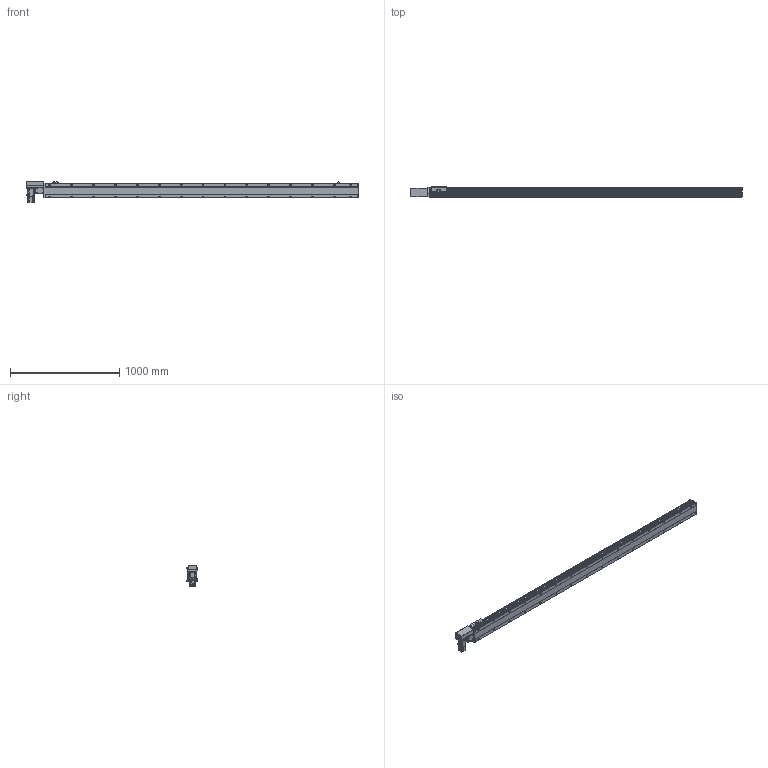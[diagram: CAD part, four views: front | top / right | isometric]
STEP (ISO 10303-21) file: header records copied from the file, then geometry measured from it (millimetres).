
FILE_DESCRIPTION(/* description */ ('STEP AP214'),/* implementation_level */ '2;1');
FILE_NAME(/* name */ 'PBS140S-P40-S2600-R-T40-C1-N(0)',/* time_stamp */ '2022-06-09T02:19:56+02:00',/* author */ ('License CC BY-ND 4.0'),/* organization */ ('CADENAS'),/* preprocessor_version */ 'ST-DEVELOPER v18.102',/* originating_system */ 'PARTsolutions',/* authorisation */ ' ');
FILE_SCHEMA (('AUTOMOTIVE_DESIGN {1 0 10303 214 3 1 1}'));
Length unit declared in the file: millimetre
Products named in the file (7): PBS140S-P40-S2600-R-T40-C1-N(0); PBS140S_sensor; PBS140S_plant; PBS140S_sliser; T40-p1; PBS140ST-R_motors; PBS140S-S2600()_body
Assembly tree (8 placements, depth 2):
  PBS140S-P40-S2600-R-T40-C1-N(0)
    PBS140S_sensor  x3
    PBS140S_plant
    PBS140S_sliser
    T40-p1
    PBS140ST-R_motors
    PBS140S-S2600()_body
Bounding box: 3033 x 93 x 189.7 mm (x, y, z)
Volume: 14325762.2 mm3; surface area: 2411213.5 mm2
Topology: 8 solids, 8 shells, 1211 faces, 3191 edges, 2087 vertices
Faces by surface type: plane 744, cylinder 401, cone 56, sphere 8, torus 2
Full cylindrical faces by diameter (mm): 3.242 x4, 4 x2, 4.134 x4, 4.4 x8, 4.5 x2, 4.8 x4, 4.917 x38, 5.5 x7, 6 x2, 7 x32, 7.5 x8, 8 x12, 8.5 x4, 10.5 x30, 14 x1, 30 x2, 50 x2
Entity records: 34702 total; most frequent: CARTESIAN_POINT 6600, DIRECTION 5838, ORIENTED_EDGE 5482, EDGE_CURVE 2741, AXIS2_PLACEMENT_3D 2069, VERTEX_POINT 1921, LINE 1700, VECTOR 1700
